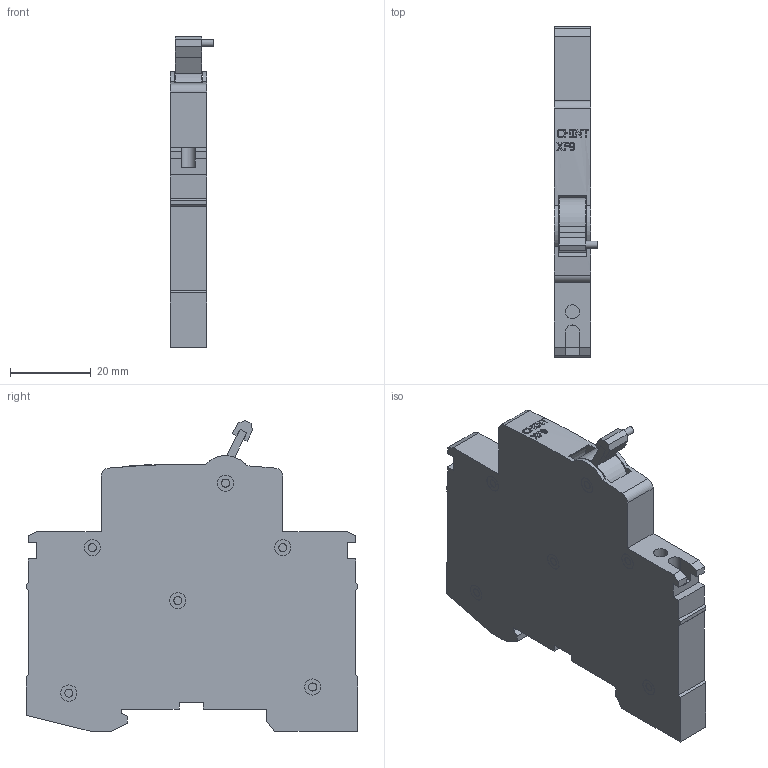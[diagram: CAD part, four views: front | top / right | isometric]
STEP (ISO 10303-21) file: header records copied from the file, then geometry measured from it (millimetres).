
FILE_DESCRIPTION(/* description */ (''),/* implementation_level */ '2;1');
FILE_NAME(/* name */ 'D:\CHINT\Аксессуары для автоматического выключателя Серия NB1\Вспомогательный контакт XF9 для NB1 (R) (CHINT).stp',/* time_stamp */ '2017-09-02T17:09:26+04:00',/* author */ ('RSagdiev'),/* organization */ (''),/* preprocessor_version */ 'ST-DEVELOPER v16.5',/* originating_system */ 'Autodesk Inventor 2017',/* authorisation */ '');
FILE_SCHEMA (('AUTOMOTIVE_DESIGN { 1 0 10303 214 3 1 1 }'));
Length unit declared in the file: millimetre
Products named in the file (1): Вспомогательный 
контакт XF9 для NB1 (R) 
(CHINT)
Bounding box: 10.75 x 82 x 76.98 mm (x, y, z)
Volume: 40115.4 mm3; surface area: 13373.2 mm2
Topology: 3 solids, 3 shells, 244 faces, 609 edges, 406 vertices
Faces by surface type: plane 165, cylinder 44, bspline 35
Full cylindrical faces by diameter (mm): 1.786 x1, 2 x12, 3.493 x1, 4 x12
Entity records: 7796 total; most frequent: CARTESIAN_POINT 2098, ORIENTED_EDGE 1166, DIRECTION 1083, EDGE_CURVE 583, VERTEX_POINT 406, LINE 363, VECTOR 363, AXIS2_PLACEMENT_3D 360
